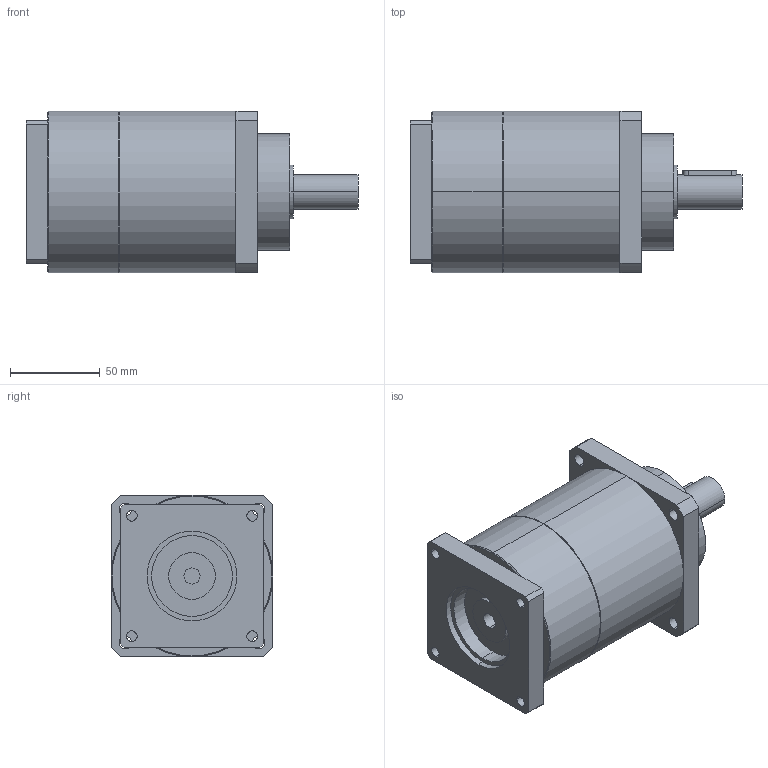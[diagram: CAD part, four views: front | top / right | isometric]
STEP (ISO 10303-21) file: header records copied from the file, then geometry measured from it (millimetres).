
FILE_DESCRIPTION(('CoCreate Modeling STEP Export'),'2;1');
FILE_NAME('GPT90_ig-9-12-16-20-25-28-35-40-50-70-100_19_B5T_9_P21.stp','2015-02-04T11:33:52',(''),(''),'CoCreate Modeling STEP processor for AP214 (Solid Model)','CoCreate Modeling 16.00C 25-Feb-2009 (C) Parametric Technology GmbH','');
FILE_SCHEMA(('AUTOMOTIVE_DESIGN { 1 0 10303 214 1 1 1 1 }'));
Length unit declared in the file: millimetre
Products named in the file (2): GPT90_ig-9-12-16-20-25-28-35-40-50-70-100_19_B5T_9_P21
Assembly tree (1 placements, depth 2):
  GPT90_ig-9-12-16-20-25-28-35-40-50-70-100_19_B5T_9_P21
    GPT90_ig-9-12-16-20-25-28-35-40-50-70-100_19_B5T_9_P21
Bounding box: 185 x 90 x 90 mm (x, y, z)
Volume: 888268 mm3; surface area: 66045.1 mm2
Topology: 1 solids, 1 shells, 84 faces, 229 edges, 152 vertices
Faces by surface type: cylinder 46, plane 34, cone 4
Entity records: 2719 total; most frequent: CARTESIAN_POINT 758, ORIENTED_EDGE 458, DIRECTION 330, EDGE_CURVE 229, VERTEX_POINT 152, AXIS2_PLACEMENT_3D 121, EDGE_LOOP 105, VECTOR 88
